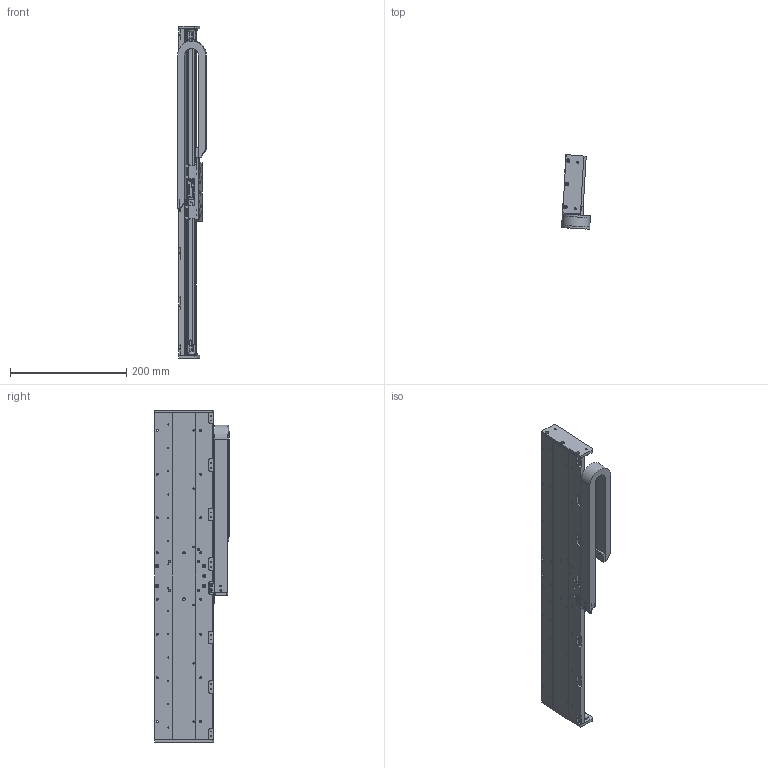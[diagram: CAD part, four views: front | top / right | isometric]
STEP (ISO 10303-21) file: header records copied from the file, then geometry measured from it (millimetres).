
FILE_DESCRIPTION(/* description */ ('MSR100 BASE'),/* implementation_level */ '2;1');
FILE_NAME(/* name */ 'I:\FY15 Projects\MSR\MSR100\Web Step Models\mSR100L-450XLSXXXXXXCM13.stp',/* time_stamp */ '2015-02-18T13:18:29-05:00',/* author */ ('BF20108'),/* organization */ (''),/* preprocessor_version */ 'ST-DEVELOPER v15.2',/* originating_system */ 'Autodesk Inventor 2014',/* authorisation */ '');
FILE_SCHEMA (('AUTOMOTIVE_DESIGN { 1 0 10303 214 3 1 1 }'));
Products named in the file (18): 102-5710-10; 003-3562-42; 102-5702-09; ml18-120m-n; ml18-80m-n; 102-5703-01; 102-5705-01; 002-3740-10; 102-5701; 003-3561; ML18-3E; 003-5000; 002-3740-short-carriage-assy; mx100-mcb; mx100-scb; e045-16-018-carrier-07; 002-3740-cbl-carr-sc-07; 002-3740
Bounding box: 49.52 x 127.66 x 570 mm (x, y, z)
Volume: 922726.5 mm3; surface area: 437077.9 mm2
Topology: 26 solids, 27 shells, 3219 faces, 8617 edges, 5512 vertices
Faces by surface type: plane 1523, cylinder 1237, torus 224, cone 223, bspline 8, sphere 4
Full cylindrical faces by diameter (mm): 0.5 x8, 1 x4, 1.567 x111, 1.588 x2, 2.007 x12, 2.013 x18, 2.135 x4, 2.4 x74, 2.459 x24, 2.5 x20, 2.642 x4, 2.75 x1, 3 x28, 3.242 x15, 3.4 x32, 3.505 x4, 4 x4, 4.17 x2, 4.2 x75, 4.5 x18, 5 x8, 5.08 x2, 6 x36, 11.176 x4
Entity records: 60822 total; most frequent: CARTESIAN_POINT 11386, DIRECTION 10293, ORIENTED_EDGE 9406, EDGE_CURVE 4689, AXIS2_PLACEMENT_3D 3703, VERTEX_POINT 3305, EDGE_LOOP 2993, LINE 2887
